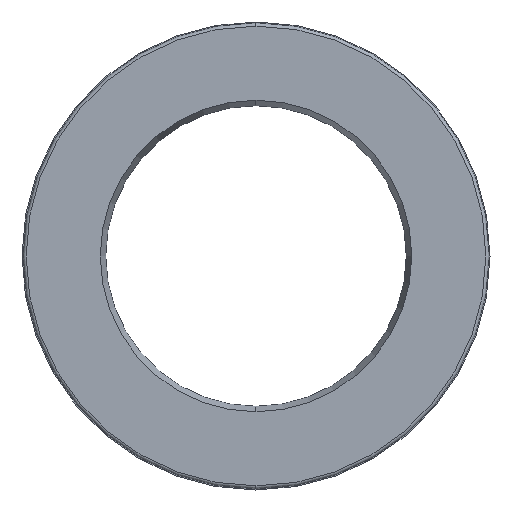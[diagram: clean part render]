
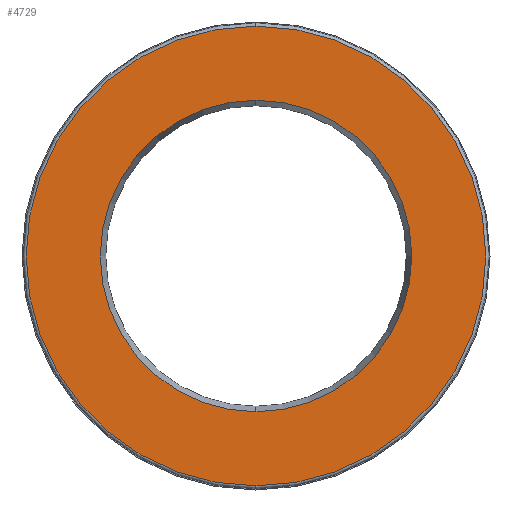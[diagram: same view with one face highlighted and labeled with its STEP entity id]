
A CAD part, left-side view. The second image highlights one B-rep face of the part: STEP entity #4729.
In plain terms, the highlighted planar face has unit normal (-1, 0, 0).
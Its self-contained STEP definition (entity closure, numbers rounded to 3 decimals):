
#170 = ORIENTED_EDGE ( 'NONE', *, *, #12614, .T. ) ;
#553 = DIRECTION ( 'NONE',  ( 1., 0., 0. ) ) ;
#709 = DIRECTION ( 'NONE',  ( 0., 0., -1. ) ) ;
#1077 = CARTESIAN_POINT ( 'NONE',  ( -6.706, 1.473, 7.027 ) ) ;
#1198 = EDGE_LOOP ( 'NONE', ( #6835, #4552 ) ) ;
#1977 = VERTEX_POINT ( 'NONE', #4895 ) ;
#2336 = CIRCLE ( 'NONE', #12029, 15.3 ) ;
#2487 = EDGE_LOOP ( 'NONE', ( #170, #4474 ) ) ;
#2786 = DIRECTION ( 'NONE',  ( -1., 0., 0. ) ) ;
#2955 = DIRECTION ( 'NONE',  ( -1., 0., 0. ) ) ;
#3564 = CARTESIAN_POINT ( 'NONE',  ( -6.706, 1.473, -3.337 ) ) ;
#3641 = DIRECTION ( 'NONE',  ( 1., 0., 0. ) ) ;
#3746 = FACE_OUTER_BOUND ( 'NONE', #1198, .T. ) ;
#4161 = CIRCLE ( 'NONE', #11489, 15.3 ) ;
#4325 = CIRCLE ( 'NONE', #9012, 10.364 ) ;
#4474 = ORIENTED_EDGE ( 'NONE', *, *, #17632, .T. ) ;
#4552 = ORIENTED_EDGE ( 'NONE', *, *, #16098, .T. ) ;
#4729 = ADVANCED_FACE ( 'NONE', ( #16017, #3746 ), #16281, .F. ) ;
#4895 = CARTESIAN_POINT ( 'NONE',  ( -6.706, 1.473, -18.637 ) ) ;
#5134 = CARTESIAN_POINT ( 'NONE',  ( -6.706, 16.973, -3.337 ) ) ;
#6454 = CARTESIAN_POINT ( 'NONE',  ( -6.706, 1.473, -13.701 ) ) ;
#6552 = CARTESIAN_POINT ( 'NONE',  ( -6.706, 1.473, 11.963 ) ) ;
#6835 = ORIENTED_EDGE ( 'NONE', *, *, #10681, .T. ) ;
#7143 = VERTEX_POINT ( 'NONE', #1077 ) ;
#7754 = VERTEX_POINT ( 'NONE', #6454 ) ;
#8305 = CARTESIAN_POINT ( 'NONE',  ( -6.706, 1.473, -3.337 ) ) ;
#9012 = AXIS2_PLACEMENT_3D ( 'NONE', #13482, #3641, #709 ) ;
#9181 = DIRECTION ( 'NONE',  ( 0., 0., -1. ) ) ;
#9680 = DIRECTION ( 'NONE',  ( 0., 0., -1. ) ) ;
#9939 = DIRECTION ( 'NONE',  ( 0., 0., -1. ) ) ;
#10345 = AXIS2_PLACEMENT_3D ( 'NONE', #5134, #553, #16364 ) ;
#10392 = DIRECTION ( 'NONE',  ( 1., 0., 0. ) ) ;
#10681 = EDGE_CURVE ( 'NONE', #1977, #16044, #4161, .T. ) ;
#11489 = AXIS2_PLACEMENT_3D ( 'NONE', #15666, #2955, #9939 ) ;
#12029 = AXIS2_PLACEMENT_3D ( 'NONE', #8305, #2786, #9680 ) ;
#12614 = EDGE_CURVE ( 'NONE', #7143, #7754, #17662, .T. ) ;
#13482 = CARTESIAN_POINT ( 'NONE',  ( -6.706, 1.473, -3.337 ) ) ;
#13549 = AXIS2_PLACEMENT_3D ( 'NONE', #3564, #10392, #9181 ) ;
#15666 = CARTESIAN_POINT ( 'NONE',  ( -6.706, 1.473, -3.337 ) ) ;
#16017 = FACE_BOUND ( 'NONE', #2487, .T. ) ;
#16044 = VERTEX_POINT ( 'NONE', #6552 ) ;
#16098 = EDGE_CURVE ( 'NONE', #16044, #1977, #2336, .T. ) ;
#16281 = PLANE ( 'NONE',  #10345 ) ;
#16364 = DIRECTION ( 'NONE',  ( 0., 0., -1. ) ) ;
#17632 = EDGE_CURVE ( 'NONE', #7754, #7143, #4325, .T. ) ;
#17662 = CIRCLE ( 'NONE', #13549, 10.364 ) ;
